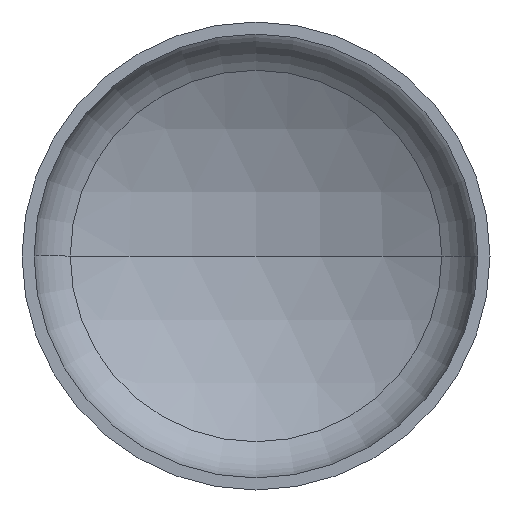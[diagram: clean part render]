
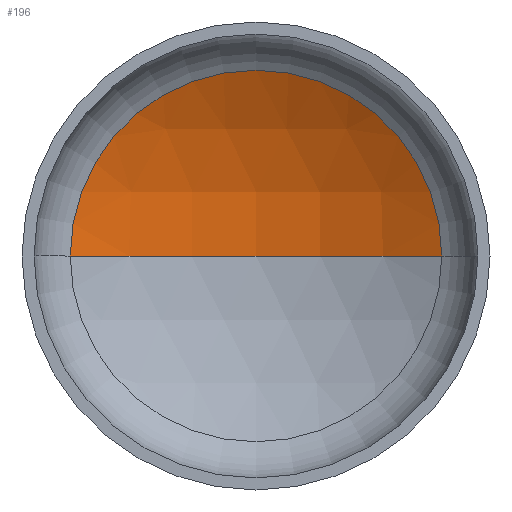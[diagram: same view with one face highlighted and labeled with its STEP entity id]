
A CAD part, front view. The second image highlights one B-rep face of the part: STEP entity #196.
In plain terms, the highlighted spherical face has radius 1120 mm.
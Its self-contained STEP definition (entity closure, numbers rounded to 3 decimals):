
#8 = AXIS2_PLACEMENT_3D ( 'NONE', #15, #235, #396 ) ;
#12 = AXIS2_PLACEMENT_3D ( 'NONE', #368, #407, #204 ) ;
#15 = CARTESIAN_POINT ( 'NONE',  ( 0., -675.763, 0. ) ) ;
#17 = EDGE_LOOP ( 'NONE', ( #102, #86, #36 ) ) ;
#34 = AXIS2_PLACEMENT_3D ( 'NONE', #242, #254, #233 ) ;
#36 = ORIENTED_EDGE ( 'NONE', *, *, #152, .T. ) ;
#51 = VERTEX_POINT ( 'NONE', #372 ) ;
#52 = AXIS2_PLACEMENT_3D ( 'NONE', #201, #215, #216 ) ;
#86 = ORIENTED_EDGE ( 'NONE', *, *, #362, .T. ) ;
#102 = ORIENTED_EDGE ( 'NONE', *, *, #373, .F. ) ;
#107 = VERTEX_POINT ( 'NONE', #321 ) ;
#127 = VERTEX_POINT ( 'NONE', #314 ) ;
#152 = EDGE_CURVE ( 'NONE', #107, #127, #410, .T. ) ;
#196 = ADVANCED_FACE ( 'NONE', ( #353 ), #228, .F. ) ;
#201 = CARTESIAN_POINT ( 'NONE',  ( 0., 296.673, 0. ) ) ;
#204 = DIRECTION ( 'NONE',  ( -1., 0., 0. ) ) ;
#215 = DIRECTION ( 'NONE',  ( 0., -1., 0. ) ) ;
#216 = DIRECTION ( 'NONE',  ( 1., 0., 0. ) ) ;
#228 = SPHERICAL_SURFACE ( 'NONE', #34, 1120. ) ;
#233 = DIRECTION ( 'NONE',  ( -1., 0., 0. ) ) ;
#235 = DIRECTION ( 'NONE',  ( 0., 0., 1. ) ) ;
#242 = CARTESIAN_POINT ( 'NONE',  ( 0., -675.763, 0. ) ) ;
#254 = DIRECTION ( 'NONE',  ( 0., 0., -1. ) ) ;
#314 = CARTESIAN_POINT ( 'NONE',  ( -555.669, 296.673, 0. ) ) ;
#321 = CARTESIAN_POINT ( 'NONE',  ( 555.669, 296.673, 0. ) ) ;
#353 = FACE_OUTER_BOUND ( 'NONE', #17, .T. ) ;
#362 = EDGE_CURVE ( 'NONE', #51, #107, #381, .T. ) ;
#368 = CARTESIAN_POINT ( 'NONE',  ( 0., -675.763, 0. ) ) ;
#372 = CARTESIAN_POINT ( 'NONE',  ( 0., 444.237, 0. ) ) ;
#373 = EDGE_CURVE ( 'NONE', #51, #127, #377, .T. ) ;
#377 = CIRCLE ( 'NONE', #8, 1120. ) ;
#381 = CIRCLE ( 'NONE', #12, 1120. ) ;
#396 = DIRECTION ( 'NONE',  ( 1., 0., 0. ) ) ;
#407 = DIRECTION ( 'NONE',  ( 0., 0., -1. ) ) ;
#410 = CIRCLE ( 'NONE', #52, 555.669 ) ;
